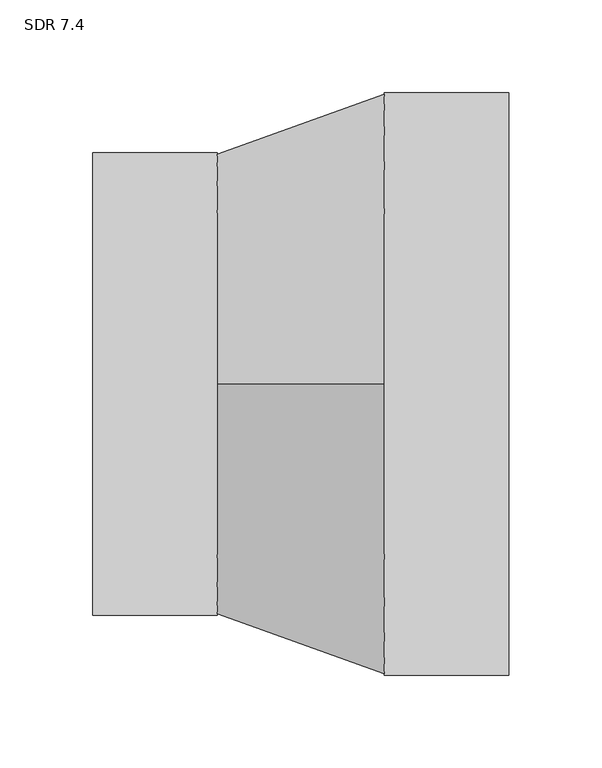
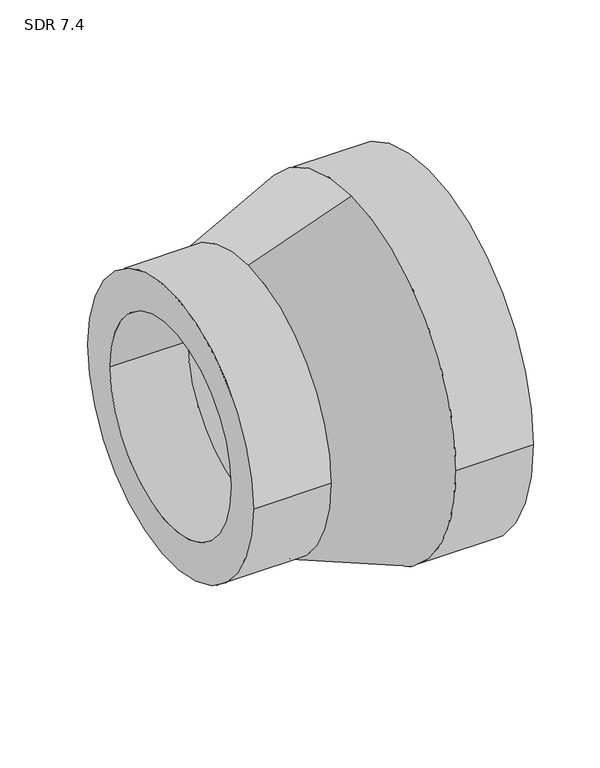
"""IFC4 building model written with IfcOpenShell, lengths in millimetres: pipe fitting geometry, Aquatherm - Reducing Coupling Combined - METRIC : SDR 7.4."""

from ifc_helpers import new_model, si_unit, frame, origin, place, context, project, spatial, polyline, circle_curve, source, transform, mapped, element, save
from ifc_brep_helpers import plane_surface, cylinder_surface, revolved_surface, advanced_brep


def sdr_7_4_23804beb(model_context):
    return source(origin(), model_context, "Body", "AdvancedBrep", [
        advanced_brep(
        [(-112.522, -124.968, 0.0), (-112.522, 124.968, 0.0), (-112.522, -91.1928649, 0.0), (-112.522, 91.1928649, 0.0), (-45.0088, 91.1928649, 0.0), (-45.0088, 0.0, 91.1928649), (-45.0088, -91.1928649, 0.0), (-45.0088, 0.0, -91.1928649), (-45.0088, 124.968, 0.0), (-45.0088, 0.0, -124.968), (-45.0088, -124.968, 0.0), (-45.0088, 0.0, 124.968), (112.522, -157.48, 0.0), (112.522, 157.48, 0.0), (112.522, -114.9178378, 0.0), (112.522, 114.9178378, 0.0), (45.0088, -157.48, 0.0), (45.0088, 0.0, -157.48), (45.0088, 157.48, 0.0), (45.0088, 0.0, 157.48), (45.0088, -114.9178378, 0.0), (45.0088, 0.0, 114.9178378), (45.0088, 114.9178378, 0.0), (45.0088, 0.0, -114.9178378)],
        [
            (0, 1, circle_curve(frame((-112.522, 0.0, 0.0), z_axis=(-1.0, 0.0, 0.0), x_axis=(0.0, 1.0, 0.0)), 124.968)),
            (1, 0, circle_curve(frame((-112.522, 0.0, 0.0), z_axis=(-1.0, 0.0, 0.0), x_axis=(0.0, 1.0, 0.0)), 124.968)),
            (2, 3, circle_curve(frame((-112.522, 0.0, 0.0), z_axis=(1.0, 0.0, 0.0), x_axis=(0.0, 1.0, 0.0)), 91.1928649)),
            (3, 2, circle_curve(frame((-112.522, 0.0, 0.0), z_axis=(1.0, 0.0, 0.0), x_axis=(0.0, 1.0, 0.0)), 91.1928649)),
            (3, 4),
            (4, 5, circle_curve(frame((-45.0088, 0.0, 0.0), z_axis=(1.0, 0.0, 0.0), x_axis=(0.0, 1.0, 0.0)), 91.1928649)),
            (5, 6, circle_curve(frame((-45.0088, 0.0, 0.0), z_axis=(1.0, 0.0, 0.0), x_axis=(0.0, 1.0, 0.0)), 91.1928649)),
            (6, 2),
            (6, 7, circle_curve(frame((-45.0088, 0.0, 0.0), z_axis=(1.0, 0.0, 0.0), x_axis=(0.0, 1.0, 0.0)), 91.1928649)),
            (7, 4, circle_curve(frame((-45.0088, 0.0, 0.0), z_axis=(1.0, 0.0, 0.0), x_axis=(0.0, 1.0, 0.0)), 91.1928649)),
            (1, 8),
            (8, 9, circle_curve(frame((-45.0088, 0.0, 0.0), z_axis=(-1.0, 0.0, 0.0), x_axis=(0.0, 1.0, 0.0)), 124.968)),
            (9, 10, circle_curve(frame((-45.0088, 0.0, 0.0), z_axis=(-1.0, 0.0, 0.0), x_axis=(0.0, 1.0, 0.0)), 124.968)),
            (10, 0),
            (10, 11, circle_curve(frame((-45.0088, 0.0, 0.0), z_axis=(-1.0, 0.0, 0.0), x_axis=(0.0, 1.0, 0.0)), 124.968)),
            (11, 8, circle_curve(frame((-45.0088, 0.0, 0.0), z_axis=(-1.0, 0.0, 0.0), x_axis=(0.0, 1.0, 0.0)), 124.968)),
            (12, 13, circle_curve(frame((112.522, 0.0, 0.0), z_axis=(1.0, 0.0, 0.0), x_axis=(0.0, 1.0, 0.0)), 157.48)),
            (13, 12, circle_curve(frame((112.522, 0.0, 0.0), z_axis=(1.0, 0.0, 0.0), x_axis=(0.0, 1.0, 0.0)), 157.48)),
            (14, 15, circle_curve(frame((112.522, 0.0, 0.0), z_axis=(-1.0, 0.0, 0.0), x_axis=(0.0, 1.0, 0.0)), 114.9178378)),
            (15, 14, circle_curve(frame((112.522, 0.0, 0.0), z_axis=(-1.0, 0.0, 0.0), x_axis=(0.0, 1.0, 0.0)), 114.9178378)),
            (12, 16),
            (16, 17, circle_curve(frame((45.0088, 0.0, 0.0), z_axis=(1.0, 0.0, 0.0), x_axis=(0.0, 1.0, 0.0)), 157.48)),
            (17, 18, circle_curve(frame((45.0088, 0.0, 0.0), z_axis=(1.0, 0.0, 0.0), x_axis=(0.0, 1.0, 0.0)), 157.48)),
            (18, 13),
            (18, 19, circle_curve(frame((45.0088, 0.0, 0.0), z_axis=(1.0, 0.0, 0.0), x_axis=(0.0, 1.0, 0.0)), 157.48)),
            (19, 16, circle_curve(frame((45.0088, 0.0, 0.0), z_axis=(1.0, 0.0, 0.0), x_axis=(0.0, 1.0, 0.0)), 157.48)),
            (14, 20),
            (20, 21, circle_curve(frame((45.0088, 0.0, 0.0), z_axis=(-1.0, 0.0, 0.0), x_axis=(0.0, 1.0, 0.0)), 114.9178378)),
            (21, 22, circle_curve(frame((45.0088, 0.0, 0.0), z_axis=(-1.0, 0.0, 0.0), x_axis=(0.0, 1.0, 0.0)), 114.9178378)),
            (22, 15),
            (22, 23, circle_curve(frame((45.0088, 0.0, 0.0), z_axis=(-1.0, 0.0, 0.0), x_axis=(0.0, 1.0, 0.0)), 114.9178378)),
            (23, 20, circle_curve(frame((45.0088, 0.0, 0.0), z_axis=(-1.0, 0.0, 0.0), x_axis=(0.0, 1.0, 0.0)), 114.9178378)),
            (11, 19),
            (17, 9),
            (21, 5),
            (7, 23),
        ],
        [
            plane_surface(frame((-112.522, 91.1928649, 0.0), z_axis=(-1.0, 0.0, 0.0), x_axis=(0.0, 0.0, 1.0))),
            revolved_surface(polyline([(-112.522, 91.1928649, 0.0), (-45.008799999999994, 91.1928649, 0.0)]), (-112.522, 0.0, 0.0), (-1.0, 0.0, 0.0)),
            cylinder_surface(frame((0.0, 0.0, 0.0), z_axis=(1.0, 0.0, 0.0), x_axis=(0.0, 1.0, 0.0)), 124.968),
            plane_surface(frame((112.522, 157.48, 0.0), z_axis=(1.0, 0.0, 0.0), x_axis=(0.0, 0.0, 1.0))),
            cylinder_surface(frame((45.0088, 0.0, 0.0), z_axis=(1.0, 0.0, 0.0), x_axis=(0.0, 1.0, 0.0)), 157.48),
            revolved_surface(polyline([(45.0088, 114.9178378, 0.0), (112.522, 114.9178378, 0.0)]), (0.0, 0.0, 0.0), (-1.0, 0.0, 0.0)),
            revolved_surface(polyline([(45.0088, 0.0, 157.48), (-45.0088, 0.0, 124.968)]), (-687.7815384, 0.0, 0.0), (-1.0, 0.0, 0.0)),
            revolved_surface(polyline([(-45.0088, 0.0, 91.1928649), (45.0088, 0.0, 114.9178378)]), (-687.7815384, 0.0, 0.0), (-1.0, 0.0, 0.0)),
        ],
        [
            (0, [[1, 2], [3, 4]]),
            (1, [[-4, 5, 6, 7, 8]]),
            (1, [[-3, -8, 9, 10, -5]]),
            (2, [[-2, 11, 12, 13, 14]]),
            (2, [[-1, -14, 15, 16, -11]]),
            (3, [[17, 18], [19, 20]]),
            (4, [[-17, 21, 22, 23, 24]]),
            (4, [[-18, -24, 25, 26, -21]]),
            (5, [[-19, 27, 28, 29, 30]]),
            (5, [[-20, -30, 31, 32, -27]]),
            (6, [[33, -25, -23, 34, -12, -16]]),
            (6, [[-33, -15, -13, -34, -22, -26]]),
            (7, [[35, -6, -10, 36, -31, -29]]),
            (7, [[-35, -28, -32, -36, -9, -7]]),
        ],
    ),
    ])


if __name__ == "__main__":
    model = new_model("IFC4")
    model_context = context("Model", 3, world=origin())
    ifc_project = project(units=[si_unit("LENGTHUNIT", "METRE", prefix="MILLI")], contexts=[model_context])
    site = spatial("IfcSite", under=ifc_project)
    building = spatial("IfcBuilding", under=site)
    placement = place(None, origin())
    sdr_7_4_shape = sdr_7_4_23804beb(model_context)
    element("IfcPipeFitting", 1, ObjectType="Aquatherm - Reducing Coupling Combined - METRIC : SDR 7.4", at=placement, inside=building, context=model_context, shape_type="MappedRepresentation", body=[
        mapped(sdr_7_4_shape, transform((0.0, 0.0, 0.0), x_axis=(1.0, 0.0, 0.0), y_axis=(0.0, 1.0, 0.0), z_axis=(0.0, 0.0, 1.0))),
    ])
    save(model, "model.ifc")
